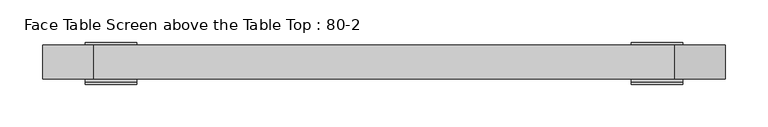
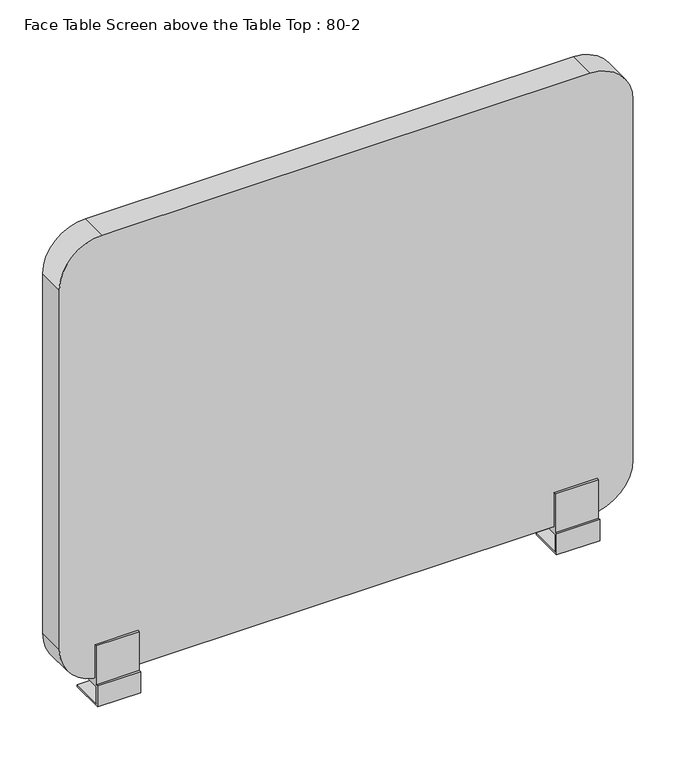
"""IFC4 building model written with IfcOpenShell, lengths in millimetres: furniture geometry, Face Table Screen above the Table Top : 80-2."""

import ifcopenshell
import ifcopenshell.guid

model = None  # the IFC model being written
_history = None  # IfcOwnerHistory: only IFC2X3 demands one
_inside = {}  # id of a spatial element -> (the spatial element, [elements in it])
_under = {}  # id of a project, library or spatial element -> (it, [spatial elements below it])
_declared = {}  # id of a project -> (the project, [libraries it declares])
_typed = {}  # id of a type object -> (the type object, [elements of that type])
_made_of = {}  # id of a material, layer set ... -> (it, [elements and type objects made of it])


def new_model(schema):
    """Start an empty IFC model of exactly this schema.

    Asked for "IFC4X3", IfcOpenShell would pick the latest addendum, in which some entities
    have other attributes; the version numbers below select the first issue.
    IFC2X3 requires an IfcOwnerHistory on every rooted entity: one is made here for all.
    """
    global model, _history
    if schema == "IFC4X3":
        model = ifcopenshell.file(schema_version=(4, 3, 0, 0))
    else:
        model = ifcopenshell.file(schema=schema)
    _inside.clear()
    _under.clear()
    _declared.clear()
    _typed.clear()
    _made_of.clear()
    _history = None
    if model.schema == "IFC2X3":
        org = make("IfcOrganization", Name="unknown")
        user = make(
            "IfcPersonAndOrganization",
            ThePerson=make("IfcPerson", FamilyName="unknown"),
            TheOrganization=org,
        )
        app = make(
            "IfcApplication",
            ApplicationDeveloper=org,
            Version="unknown",
            ApplicationFullName="unknown",
            ApplicationIdentifier="unknown",
        )
        _history = make(
            "IfcOwnerHistory",
            OwningUser=user,
            OwningApplication=app,
            ChangeAction="ADDED",
            CreationDate=0,
        )
    return model


def make(cls, **values):
    """One entity of the class cls with the attributes given. An attribute that is None is left unset."""
    return model.create_entity(
        cls, **{name: value for name, value in values.items() if value is not None}
    )


def rooted(cls, **values):
    """An entity with a GlobalId (a new one), such as an element, a storey or a relation."""
    return make(cls, GlobalId=ifcopenshell.guid.new(), OwnerHistory=_history, **values)


def si_unit(unit_type, name, prefix=None):
    """IfcSIUnit, for example si_unit("LENGTHUNIT", "METRE", prefix="MILLI")."""
    return make("IfcSIUnit", UnitType=unit_type, Prefix=prefix, Name=name)


def assignment(units):
    """IfcUnitAssignment: the units of a project."""
    return None if units is None else make("IfcUnitAssignment", Units=units)


def point(xyz):
    """IfcCartesianPoint."""
    return None if xyz is None else make("IfcCartesianPoint", Coordinates=xyz)


def direction(xyz):
    """IfcDirection."""
    return None if xyz is None else make("IfcDirection", DirectionRatios=xyz)


def frame(location, z_axis=None, x_axis=None):
    """IfcAxis2Placement3D, a coordinate frame: its origin and axes. An axis left out is left unset."""
    return make(
        "IfcAxis2Placement3D",
        Location=point(location),
        Axis=direction(z_axis),
        RefDirection=direction(x_axis),
    )


def frame_2d(location, x_axis=None):
    """IfcAxis2Placement2D, a coordinate frame in the plane: its origin and x axis."""
    return make(
        "IfcAxis2Placement2D", Location=point(location), RefDirection=direction(x_axis)
    )


def origin():
    """The frame at (0, 0, 0) with its axes left unset."""
    return frame((0.0, 0.0, 0.0))


def place(relative_to, where):
    """IfcLocalPlacement: puts the frame where relative to a parent placement (None: the world)."""
    return make(
        "IfcLocalPlacement", PlacementRelTo=relative_to, RelativePlacement=where
    )


def context(
    kind, dimensions, precision=None, world=None, true_north=None, identifier=None
):
    """IfcGeometricRepresentationContext, for example the 3D "Model" context."""
    return make(
        "IfcGeometricRepresentationContext",
        ContextIdentifier=identifier,
        ContextType=kind,
        CoordinateSpaceDimension=dimensions,
        Precision=precision,
        WorldCoordinateSystem=world,
        TrueNorth=true_north,
    )


def project(units=None, contexts=None):
    """IfcProject with its units and contexts."""
    return rooted(
        "IfcProject",
        Name="project",
        RepresentationContexts=contexts,
        UnitsInContext=assignment(units),
    )


def spatial(cls, under=None, at=None, **own):
    """A site, building, storey or space (cls), placed at a placement, below another one or the project."""
    s = rooted(cls, ObjectPlacement=at, **own)
    if under is not None:
        _under.setdefault(under.id(), (under, []))[1].append(s)
    return s


def polyline(points):
    """IfcPolyline through the points."""
    return make("IfcPolyline", Points=[point(p) for p in points])


def circle_curve(where, radius):
    """IfcCircle in the frame where."""
    return make("IfcCircle", Position=where, Radius=radius)


def trimmed(basis, trim1, trim2, sense, master):
    """IfcTrimmedCurve: the piece of a basis curve between two trims."""
    return make(
        "IfcTrimmedCurve",
        BasisCurve=basis,
        Trim1=trim1,
        Trim2=trim2,
        SenseAgreement=sense,
        MasterRepresentation=master,
    )


def segment(curve, same_sense, transition):
    """IfcCompositeCurveSegment."""
    return make(
        "IfcCompositeCurveSegment",
        Transition=transition,
        SameSense=same_sense,
        ParentCurve=curve,
    )


def composite_curve(segments, self_intersect=None):
    """IfcCompositeCurve: segments joined end to end."""
    return make("IfcCompositeCurve", Segments=segments, SelfIntersect=self_intersect)


def outline(outer, holes=None, kind="AREA"):
    """IfcArbitraryClosedProfileDef: a profile drawn as a closed curve; with holes, ...WithVoids."""
    if holes is None:
        return make("IfcArbitraryClosedProfileDef", ProfileType=kind, OuterCurve=outer)
    return make(
        "IfcArbitraryProfileDefWithVoids",
        ProfileType=kind,
        OuterCurve=outer,
        InnerCurves=holes,
    )


def extrude(swept, where, along, depth):
    """IfcExtrudedAreaSolid: the profile swept, set in the frame where, extruded along a direction by depth."""
    return make(
        "IfcExtrudedAreaSolid",
        SweptArea=swept,
        Position=where,
        ExtrudedDirection=direction(along),
        Depth=depth,
    )


def shape(context_of_items, identifier, shape_type, items):
    """IfcShapeRepresentation: the items that make up one representation, for example the "Body"."""
    return make(
        "IfcShapeRepresentation",
        ContextOfItems=context_of_items,
        RepresentationIdentifier=identifier,
        RepresentationType=shape_type,
        Items=items,
    )


def source(mapping_origin, context_of_items, identifier, shape_type, items):
    """IfcRepresentationMap: a shape defined once, which mapped items show again and again."""
    return make(
        "IfcRepresentationMap",
        MappingOrigin=mapping_origin,
        MappedRepresentation=shape(context_of_items, identifier, shape_type, items),
    )


def transform(
    local_origin,
    x_axis=None,
    y_axis=None,
    z_axis=None,
    scale=None,
    scale2=None,
    scale3=None,
    uniform=True,
):
    """IfcCartesianTransformationOperator3D, or its non-uniform kind. x_axis, y_axis, z_axis: its Axis1, 2, 3."""
    if uniform:
        return make(
            "IfcCartesianTransformationOperator3D",
            Axis1=direction(x_axis),
            Axis2=direction(y_axis),
            LocalOrigin=point(local_origin),
            Scale=scale,
            Axis3=direction(z_axis),
        )
    return make(
        "IfcCartesianTransformationOperator3DnonUniform",
        Axis1=direction(x_axis),
        Axis2=direction(y_axis),
        LocalOrigin=point(local_origin),
        Scale=scale,
        Axis3=direction(z_axis),
        Scale2=scale2,
        Scale3=scale3,
    )


def mapped(mapping_source, mapping_target):
    """IfcMappedItem: shows the shape of a source again, moved by a transform."""
    return make(
        "IfcMappedItem", MappingSource=mapping_source, MappingTarget=mapping_target
    )


def made_of(thing, what):
    """Note that an element or type object is made of a material, layer set ...; save() writes the relation."""
    if what is not None:
        _made_of.setdefault(what.id(), (what, []))[1].append(thing)
    return thing


def element(
    cls,
    number,
    at=None,
    inside=None,
    cuts=None,
    type_object=None,
    material=None,
    context=None,
    identifier="Body",
    shape_type=None,
    held_by="IfcProductDefinitionShape",
    body=None,
    shapes=None,
    **own,
):
    """One element of the class cls, such as IfcWall. Its Tag is "e" and its number.

    at: its placement. inside: the storey or other place that contains it. cuts: it is an
    opening in that element (IfcRelVoidsElement). A single representation is given by context,
    identifier, shape_type and body (its items); several are given by shapes. held_by: the class
    of the entity that holds the representations. save() writes the other relations.
    """
    e = rooted(cls, Tag="e%d" % number, ObjectPlacement=at, **own)
    if body is not None:
        shapes = [shape(context, identifier, shape_type, body)]
    if shapes is not None:
        e.Representation = make(held_by, Representations=shapes)
    if inside is not None:
        _inside.setdefault(inside.id(), (inside, []))[1].append(e)
    if cuts is not None:
        rooted(
            "IfcRelVoidsElement", RelatingBuildingElement=cuts, RelatedOpeningElement=e
        )
    if type_object is not None:
        _typed.setdefault(type_object.id(), (type_object, []))[1].append(e)
    return made_of(e, material)


def aggregate(whole, parts):
    """IfcRelAggregates: a whole, such as a stair, and the parts it consists of."""
    return rooted("IfcRelAggregates", RelatingObject=whole, RelatedObjects=parts)


def save(model, path):
    """Write the relations noted so far, then the file.

    IfcRelAggregates (storeys below a building ...), IfcRelContainedInSpatialStructure (elements
    in a storey), IfcRelDefinesByType, IfcRelAssociatesMaterial and IfcRelDeclares: one each for
    every whole, place, type object, material and project.
    """
    for whole, parts in _under.values():
        aggregate(whole, parts)
    for where, things in _inside.values():
        rooted(
            "IfcRelContainedInSpatialStructure",
            RelatedElements=things,
            RelatingStructure=where,
        )
    for kind, things in _typed.values():
        rooted("IfcRelDefinesByType", RelatedObjects=things, RelatingType=kind)
    for what, things in _made_of.values():
        rooted("IfcRelAssociatesMaterial", RelatedObjects=things, RelatingMaterial=what)
    for by, libraries in _declared.values():
        rooted("IfcRelDeclares", RelatingContext=by, RelatedDefinitions=libraries)
    model.write(path)


def plane_surface(at):
    """IfcPlane: the flat surface through the origin of the frame at, square to its z axis."""
    return make("IfcPlane", Position=at)


def cylinder_surface(at, radius):
    """IfcCylindricalSurface: all points at the distance radius from the z axis of the frame at."""
    return make("IfcCylindricalSurface", Position=at, Radius=radius)


def advanced_brep(points, edges, surfaces, faces):
    """IfcAdvancedBrep: a solid bounded by faces that lie on surfaces and meet in shared edges.

    An edge is (start, end): straight between two places in points (the first is 0);
    or (start, end, curve); or (start, end, curve, False) where it runs against its curve.
    A face is (place in surfaces, loops), or (place, loops, False) where it looks against
    its surface's normal. A loop lists edges by number (the first is 1), with a minus sign
    where the edge is run from its end to its start. The first loop is the outer one.
    """
    corners = [point(p) for p in points]
    vertices = [make("IfcVertexPoint", VertexGeometry=c) for c in corners]
    made = []
    for start, end, *more in edges:
        made.append(
            make(
                "IfcEdgeCurve",
                EdgeStart=vertices[start],
                EdgeEnd=vertices[end],
                EdgeGeometry=more[0] if more else make("IfcPolyline", Points=[corners[start], corners[end]]),
                SameSense=more[1] if len(more) > 1 else True,
            )
        )
    hull = []
    for where, loops, *sense in faces:
        bounds = []
        for j, loop in enumerate(loops):
            ring = [make("IfcOrientedEdge", EdgeElement=made[abs(k) - 1], Orientation=k > 0) for k in loop]
            bounds.append(
                make(
                    "IfcFaceOuterBound" if j == 0 else "IfcFaceBound",
                    Bound=make("IfcEdgeLoop", EdgeList=ring),
                    Orientation=True,
                )
            )
        hull.append(make("IfcAdvancedFace", Bounds=bounds, FaceSurface=surfaces[where], SameSense=sense[0] if sense else True))
    return make("IfcAdvancedBrep", Outer=make("IfcClosedShell", CfsFaces=hull))


def face_table_screen_above_the_table_top_80_2_a9562ace(model_context):
    return source(origin(), model_context, "Body", "SolidModel", [
        advanced_brep(
        [(-325.0, 0.0, -39.4406633), (-315.0, 0.0, -39.4406633), (-315.0, 0.0, -28.0), (-325.0, 0.0, -28.0), (-350.0, 23.0, -25.0), (-350.0, -23.0, -25.0), (-290.0, -23.0, -25.0), (-290.0, 23.0, -25.0), (-350.0, -23.0, 0.0), (-350.0, 23.0, -28.0), (-350.0, -26.0, -28.0), (-350.0, -26.0, 3.0), (-350.0, -23.0, 3.0), (-350.0, -23.0, 60.0), (-350.0, -20.0, 60.0), (-350.0, -20.0, 10.0), (-350.0, 20.0, 10.0), (-350.0, 20.0, 60.0), (-350.0, 23.0, 60.0), (-350.0, 23.0, 0.0), (-290.0, -23.0, 0.0), (-290.0, 23.0, 0.0), (-290.0, 23.0, 60.0), (-290.0, 20.0, 60.0), (-290.0, 20.0, 10.0), (-290.0, -20.0, 10.0), (-290.0, -20.0, 60.0), (-290.0, -23.0, 60.0), (-290.0, -23.0, 3.0), (-290.0, -26.0, 3.0), (-290.0, -26.0, -28.0), (-290.0, 23.0, -28.0)],
        [
            (0, 1, circle_curve(frame((-320.0, 0.0, -39.4406633), z_axis=(0.0, 0.0, -1.0), x_axis=(1.0, 0.0, 0.0)), 5.0)),
            (1, 0, circle_curve(frame((-320.0, 0.0, -39.4406633), z_axis=(0.0, 0.0, -1.0), x_axis=(1.0, 0.0, 0.0)), 5.0)),
            (1, 2),
            (2, 3, circle_curve(frame((-320.0, 0.0, -28.0), z_axis=(0.0, 0.0, -1.0), x_axis=(1.0, 0.0, 0.0)), 5.0)),
            (3, 0),
            (3, 2, circle_curve(frame((-320.0, 0.0, -28.0), z_axis=(0.0, 0.0, -1.0), x_axis=(1.0, 0.0, 0.0)), 5.0)),
            (4, 5),
            (5, 6),
            (6, 7),
            (7, 4),
            (8, 5),
            (4, 9),
            (9, 10),
            (10, 11),
            (11, 12),
            (12, 13),
            (13, 14),
            (14, 15),
            (15, 16),
            (16, 17),
            (17, 18),
            (18, 19),
            (19, 8),
            (20, 21),
            (21, 22),
            (22, 23),
            (23, 24),
            (24, 25),
            (25, 26),
            (26, 27),
            (27, 28),
            (28, 29),
            (29, 30),
            (30, 31),
            (31, 7),
            (6, 20),
            (19, 21),
            (20, 8),
            (18, 22),
            (17, 23),
            (16, 24),
            (15, 25),
            (14, 26),
            (13, 27),
            (12, 28),
            (11, 29),
            (10, 30),
            (9, 31),
        ],
        [
            plane_surface(frame((-315.0, 0.0, -39.4406633), z_axis=(0.0, 0.0, -1.0), x_axis=(0.0, -1.0, 0.0))),
            cylinder_surface(frame((-320.0, 0.0, -39.4406633), z_axis=(0.0, 0.0, 1.0), x_axis=(1.0, 0.0, 0.0)), 5.0),
            plane_surface(frame((-315.0, 0.0, -25.0), z_axis=(0.0, 0.0, 1.0), x_axis=(0.0, 1.0, 0.0))),
            plane_surface(frame((-350.0, 23.0, 0.0), z_axis=(-1.0, 0.0, 0.0), x_axis=(0.0, -1.0, 0.0))),
            plane_surface(frame((-290.0, 23.0, 0.0), z_axis=(1.0, 0.0, 0.0), x_axis=(0.0, 1.0, 0.0))),
            plane_surface(frame((-290.0, -23.0, 0.0), z_axis=(0.0, 0.0, -1.0), x_axis=(-1.0, 0.0, 0.0))),
            plane_surface(frame((-290.0, 23.0, 0.0), z_axis=(0.0, 1.0, 0.0), x_axis=(-1.0, 0.0, 0.0))),
            plane_surface(frame((-290.0, 23.0, 60.0), z_axis=(0.0, 0.0, 1.0), x_axis=(-1.0, 0.0, 0.0))),
            plane_surface(frame((-290.0, 20.0, 60.0), z_axis=(0.0, -1.0, 0.0), x_axis=(-1.0, 0.0, 0.0))),
            plane_surface(frame((-290.0, 20.0, 10.0), z_axis=(0.0, 0.0, 1.0), x_axis=(-1.0, 0.0, 0.0))),
            plane_surface(frame((-290.0, -20.0, 10.0), z_axis=(0.0, 1.0, 0.0), x_axis=(-1.0, 0.0, 0.0))),
            plane_surface(frame((-290.0, -20.0, 60.0), z_axis=(0.0, 0.0, 1.0), x_axis=(-1.0, 0.0, 0.0))),
            plane_surface(frame((-290.0, -23.0, 60.0), z_axis=(0.0, -1.0, 0.0), x_axis=(-1.0, 0.0, 0.0))),
            plane_surface(frame((-290.0, -23.0, 3.0), z_axis=(0.0, 0.0, 1.0), x_axis=(-1.0, 0.0, 0.0))),
            plane_surface(frame((-290.0, -26.0, 3.0), z_axis=(0.0, -1.0, 0.0), x_axis=(-1.0, 0.0, 0.0))),
            plane_surface(frame((-290.0, -26.0, -28.0), z_axis=(0.0, 0.0, -1.0), x_axis=(-1.0, 0.0, 0.0))),
            plane_surface(frame((-290.0, 23.0, -28.0), z_axis=(0.0, 1.0, 0.0), x_axis=(-1.0, 0.0, 0.0))),
            plane_surface(frame((-290.0, -23.0, -25.0), z_axis=(0.0, 1.0, 0.0), x_axis=(-1.0, 0.0, 0.0))),
        ],
        [
            (0, [[1, 2]]),
            (1, [[-2, 3, 4, 5]]),
            (1, [[-1, -5, 6, -3]]),
            (2, [[7, 8, 9, 10]]),
            (3, [[11, -7, 12, 13, 14, 15, 16, 17, 18, 19, 20, 21, 22, 23]]),
            (4, [[24, 25, 26, 27, 28, 29, 30, 31, 32, 33, 34, 35, -9, 36]]),
            (5, [[-23, 37, -24, 38]]),
            (6, [[-22, 39, -25, -37]]),
            (7, [[-21, 40, -26, -39]]),
            (8, [[-20, 41, -27, -40]]),
            (9, [[-19, 42, -28, -41]]),
            (10, [[-18, 43, -29, -42]]),
            (11, [[-17, 44, -30, -43]]),
            (12, [[-16, 45, -31, -44]]),
            (13, [[-15, 46, -32, -45]]),
            (14, [[-14, 47, -33, -46]]),
            (15, [[-13, 48, -34, -47], [-4, -6]]),
            (16, [[-12, -10, -35, -48]]),
            (17, [[-11, -38, -36, -8]]),
        ],
    ),
        advanced_brep(
        [(315.0, 0.0, -39.4406633), (325.0, 0.0, -39.4406633), (325.0, 0.0, -28.0), (315.0, 0.0, -28.0), (290.0, 23.0, -25.0), (290.0, -23.0, -25.0), (350.0, -23.0, -25.0), (350.0, 23.0, -25.0), (290.0, -23.0, 0.0), (290.0, 23.0, -28.0), (290.0, -26.0, -28.0), (290.0, -26.0, 3.0), (290.0, -23.0, 3.0), (290.0, -23.0, 60.0), (290.0, -20.0, 60.0), (290.0, -20.0, 10.0), (290.0, 20.0, 10.0), (290.0, 20.0, 60.0), (290.0, 23.0, 60.0), (290.0, 23.0, 0.0), (350.0, -23.0, 0.0), (350.0, 23.0, 0.0), (350.0, 23.0, 60.0), (350.0, 20.0, 60.0), (350.0, 20.0, 10.0), (350.0, -20.0, 10.0), (350.0, -20.0, 60.0), (350.0, -23.0, 60.0), (350.0, -23.0, 3.0), (350.0, -26.0, 3.0), (350.0, -26.0, -28.0), (350.0, 23.0, -28.0)],
        [
            (0, 1, circle_curve(frame((320.0, 0.0, -39.4406633), z_axis=(0.0, 0.0, -1.0), x_axis=(1.0, 0.0, 0.0)), 5.0)),
            (1, 0, circle_curve(frame((320.0, 0.0, -39.4406633), z_axis=(0.0, 0.0, -1.0), x_axis=(1.0, 0.0, 0.0)), 5.0)),
            (1, 2),
            (2, 3, circle_curve(frame((320.0, 0.0, -28.0), z_axis=(0.0, 0.0, -1.0), x_axis=(1.0, 0.0, 0.0)), 5.0)),
            (3, 0),
            (3, 2, circle_curve(frame((320.0, 0.0, -28.0), z_axis=(0.0, 0.0, -1.0), x_axis=(1.0, 0.0, 0.0)), 5.0)),
            (4, 5),
            (5, 6),
            (6, 7),
            (7, 4),
            (8, 5),
            (4, 9),
            (9, 10),
            (10, 11),
            (11, 12),
            (12, 13),
            (13, 14),
            (14, 15),
            (15, 16),
            (16, 17),
            (17, 18),
            (18, 19),
            (19, 8),
            (20, 21),
            (21, 22),
            (22, 23),
            (23, 24),
            (24, 25),
            (25, 26),
            (26, 27),
            (27, 28),
            (28, 29),
            (29, 30),
            (30, 31),
            (31, 7),
            (6, 20),
            (19, 21),
            (20, 8),
            (18, 22),
            (17, 23),
            (16, 24),
            (15, 25),
            (14, 26),
            (13, 27),
            (12, 28),
            (11, 29),
            (10, 30),
            (9, 31),
        ],
        [
            plane_surface(frame((325.0, 0.0, -39.4406633), z_axis=(0.0, 0.0, -1.0), x_axis=(0.0, -1.0, 0.0))),
            cylinder_surface(frame((320.0, 0.0, -39.4406633), z_axis=(0.0, 0.0, 1.0), x_axis=(1.0, 0.0, 0.0)), 5.0),
            plane_surface(frame((325.0, 0.0, -25.0), z_axis=(0.0, 0.0, 1.0), x_axis=(0.0, 1.0, 0.0))),
            plane_surface(frame((290.0, 23.0, 0.0), z_axis=(-1.0, 0.0, 0.0), x_axis=(0.0, -1.0, 0.0))),
            plane_surface(frame((350.0, 23.0, 0.0), z_axis=(1.0, 0.0, 0.0), x_axis=(0.0, 1.0, 0.0))),
            plane_surface(frame((350.0, -23.0, 0.0), z_axis=(0.0, 0.0, -1.0), x_axis=(-1.0, 0.0, 0.0))),
            plane_surface(frame((350.0, 23.0, 0.0), z_axis=(0.0, 1.0, 0.0), x_axis=(-1.0, 0.0, 0.0))),
            plane_surface(frame((350.0, 23.0, 60.0), z_axis=(0.0, 0.0, 1.0), x_axis=(-1.0, 0.0, 0.0))),
            plane_surface(frame((350.0, 20.0, 60.0), z_axis=(0.0, -1.0, 0.0), x_axis=(-1.0, 0.0, 0.0))),
            plane_surface(frame((350.0, 20.0, 10.0), z_axis=(0.0, 0.0, 1.0), x_axis=(-1.0, 0.0, 0.0))),
            plane_surface(frame((350.0, -20.0, 10.0), z_axis=(0.0, 1.0, 0.0), x_axis=(-1.0, 0.0, 0.0))),
            plane_surface(frame((350.0, -20.0, 60.0), z_axis=(0.0, 0.0, 1.0), x_axis=(-1.0, 0.0, 0.0))),
            plane_surface(frame((350.0, -23.0, 60.0), z_axis=(0.0, -1.0, 0.0), x_axis=(-1.0, 0.0, 0.0))),
            plane_surface(frame((350.0, -23.0, 3.0), z_axis=(0.0, 0.0, 1.0), x_axis=(-1.0, 0.0, 0.0))),
            plane_surface(frame((350.0, -26.0, 3.0), z_axis=(0.0, -1.0, 0.0), x_axis=(-1.0, 0.0, 0.0))),
            plane_surface(frame((350.0, -26.0, -28.0), z_axis=(0.0, 0.0, -1.0), x_axis=(-1.0, 0.0, 0.0))),
            plane_surface(frame((350.0, 23.0, -28.0), z_axis=(0.0, 1.0, 0.0), x_axis=(-1.0, 0.0, 0.0))),
            plane_surface(frame((350.0, -23.0, -25.0), z_axis=(0.0, 1.0, 0.0), x_axis=(-1.0, 0.0, 0.0))),
        ],
        [
            (0, [[1, 2]]),
            (1, [[-2, 3, 4, 5]]),
            (1, [[-1, -5, 6, -3]]),
            (2, [[7, 8, 9, 10]]),
            (3, [[11, -7, 12, 13, 14, 15, 16, 17, 18, 19, 20, 21, 22, 23]]),
            (4, [[24, 25, 26, 27, 28, 29, 30, 31, 32, 33, 34, 35, -9, 36]]),
            (5, [[-23, 37, -24, 38]]),
            (6, [[-22, 39, -25, -37]]),
            (7, [[-21, 40, -26, -39]]),
            (8, [[-20, 41, -27, -40]]),
            (9, [[-19, 42, -28, -41]]),
            (10, [[-18, 43, -29, -42]]),
            (11, [[-17, 44, -30, -43]]),
            (12, [[-16, 45, -31, -44]]),
            (13, [[-15, 46, -32, -45]]),
            (14, [[-14, 47, -33, -46]]),
            (15, [[-13, 48, -34, -47], [-4, -6]]),
            (16, [[-12, -10, -35, -48]]),
            (17, [[-11, -38, -36, -8]]),
        ],
    ),
        extrude(outline(composite_curve([segment(polyline([(660.0, 340.0), (660.0, -340.0)]), True, "CONTINUOUS"), segment(trimmed(circle_curve(frame_2d((600.0, -340.0)), 60.0), [point((660.0, -340.0))], [point((600.0, -400.0))], False, "CARTESIAN"), True, "CONTINUOUS"), segment(polyline([(600.0, -400.0), (70.0, -400.0)]), True, "CONTINUOUS"), segment(trimmed(circle_curve(frame_2d((70.0, -340.0)), 60.0), [point((70.0, -400.0))], [point((10.0, -340.0))], False, "CARTESIAN"), True, "CONTINUOUS"), segment(polyline([(10.0, -340.0), (10.0, 340.0)]), True, "CONTINUOUS"), segment(trimmed(circle_curve(frame_2d((70.0, 340.0)), 60.0), [point((10.0, 340.0))], [point((70.0, 400.0))], False, "CARTESIAN"), True, "CONTINUOUS"), segment(polyline([(70.0, 400.0), (600.0, 400.0)]), True, "CONTINUOUS"), segment(trimmed(circle_curve(frame_2d((600.0, 340.0)), 60.0), [point((600.0, 400.0))], [point((660.0, 340.0))], False, "CARTESIAN"), True, "CONTINUOUS")], self_intersect=False)), frame((0.0, -20.0, 0.0), z_axis=(0.0, 1.0, 0.0), x_axis=(0.0, 0.0, 1.0)), (0.0, 0.0, 1.0), 40.0),
    ])


if __name__ == "__main__":
    model = new_model("IFC4")
    model_context = context("Model", 3, world=origin())
    ifc_project = project(units=[si_unit("LENGTHUNIT", "METRE", prefix="MILLI")], contexts=[model_context])
    site = spatial("IfcSite", under=ifc_project)
    building = spatial("IfcBuilding", under=site)
    placement = place(None, origin())
    face_table_screen_above_the_table_top_80_2_shape = face_table_screen_above_the_table_top_80_2_a9562ace(model_context)
    element("IfcFurniture", 1, ObjectType="Face Table Screen above the Table Top : 80-2", at=placement, inside=building, context=model_context, shape_type="MappedRepresentation", body=[
        mapped(face_table_screen_above_the_table_top_80_2_shape, transform((0.0, 0.0, 0.0), x_axis=(1.0, 0.0, 0.0), y_axis=(0.0, 1.0, 0.0), z_axis=(0.0, 0.0, 1.0))),
    ])
    save(model, "model.ifc")
